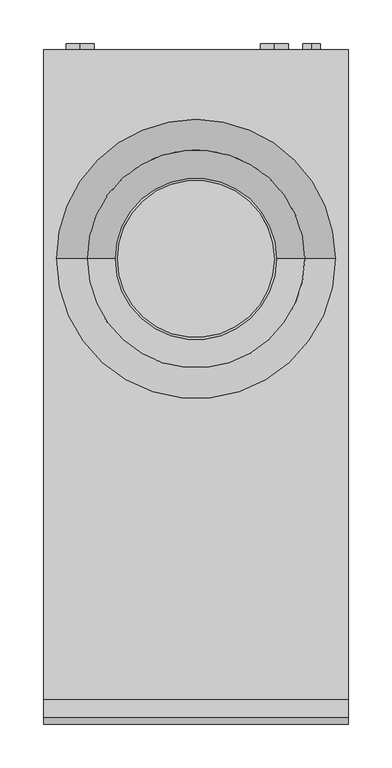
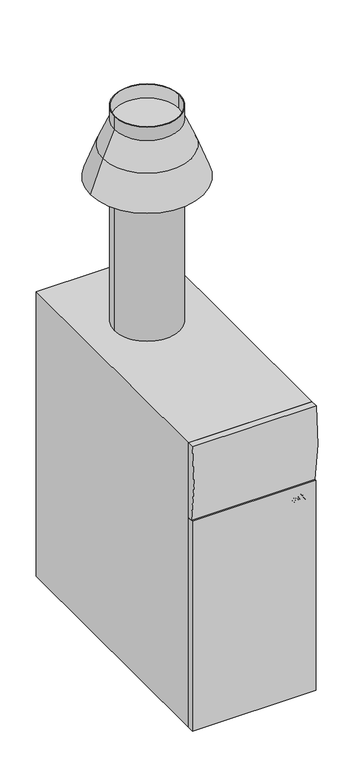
"""IFC4 building model written with IfcOpenShell, lengths in millimetres: proxy geometry, BAXI_ГазовыйКотел_Slim-iN : BAXI_Газовый котел_Slim_1.620_iN."""

from ifc_helpers import new_model, si_unit, point, frame, frame_2d, origin, origin_with_axes, place, context, project, spatial, polyline, circle_curve, trimmed, segment, composite_curve, outline, extrude, source, transform, mapped, element, save
from ifc_brep_helpers import plane_surface, cylinder_surface, revolved_surface, advanced_brep


def mechanical_equipment_ea8dedc1(model_context):
    return source(origin(), model_context, "Body", "SolidModel", [
        advanced_brep(
        [(-92.5, -350.0, 1490.0), (92.5, -350.0, 1490.0), (-90.0, -350.0, 1490.0), (90.0, -350.0, 1490.0), (-92.5, -350.0, 850.0), (92.5, -350.0, 850.0), (-90.0, -350.0, 850.0), (90.0, -350.0, 850.0), (90.0, -350.0, 1450.0), (-90.0, -350.0, 1450.0), (-90.0, -350.0, 1280.0), (90.0, -350.0, 1280.0), (-160.0, -350.0, 1280.0), (160.0, -350.0, 1280.0), (-92.5, -350.0, 1280.0), (92.5, -350.0, 1280.0), (125.0, -350.0, 1374.5309749), (-125.0, -350.0, 1374.5309749), (92.5, -350.0, 1450.0), (-92.5, -350.0, 1450.0)],
        [
            (0, 1, circle_curve(frame((0.0, -350.0, 1490.0), z_axis=(0.0, 0.0, 1.0), x_axis=(1.0, 0.0, 0.0)), 92.5)),
            (1, 0, circle_curve(frame((0.0, -350.0, 1490.0), z_axis=(0.0, 0.0, 1.0), x_axis=(1.0, 0.0, 0.0)), 92.5)),
            (2, 3, circle_curve(frame((0.0, -350.0, 1490.0), z_axis=(0.0, 0.0, -1.0), x_axis=(1.0, 0.0, 0.0)), 90.0)),
            (3, 2, circle_curve(frame((0.0, -350.0, 1490.0), z_axis=(0.0, 0.0, -1.0), x_axis=(1.0, 0.0, 0.0)), 90.0)),
            (4, 5, circle_curve(frame((0.0, -350.0, 850.0), z_axis=(0.0, 0.0, -1.0), x_axis=(1.0, 0.0, 0.0)), 92.5)),
            (5, 4, circle_curve(frame((0.0, -350.0, 850.0), z_axis=(0.0, 0.0, -1.0), x_axis=(1.0, 0.0, 0.0)), 92.5)),
            (6, 7, circle_curve(frame((0.0, -350.0, 850.0), z_axis=(0.0, 0.0, 1.0), x_axis=(1.0, 0.0, 0.0)), 90.0)),
            (7, 6, circle_curve(frame((0.0, -350.0, 850.0), z_axis=(0.0, 0.0, 1.0), x_axis=(1.0, 0.0, 0.0)), 90.0)),
            (3, 8),
            (8, 9, circle_curve(frame((0.0, -350.0, 1450.0), z_axis=(0.0, 0.0, -1.0), x_axis=(1.0, 0.0, 0.0)), 90.0)),
            (9, 2),
            (6, 10),
            (10, 11, circle_curve(frame((0.0, -350.0, 1280.0), z_axis=(0.0, 0.0, 1.0), x_axis=(1.0, 0.0, 0.0)), 90.0)),
            (11, 7),
            (9, 8, circle_curve(frame((0.0, -350.0, 1450.0), z_axis=(0.0, 0.0, -1.0), x_axis=(1.0, 0.0, 0.0)), 90.0)),
            (11, 10, circle_curve(frame((0.0, -350.0, 1280.0), z_axis=(0.0, 0.0, 1.0), x_axis=(1.0, 0.0, 0.0)), 90.0)),
            (12, 13, circle_curve(frame((0.0, -350.0, 1280.0), z_axis=(0.0, 0.0, -1.0), x_axis=(-1.0, 0.0, 0.0)), 160.0)),
            (13, 12, circle_curve(frame((0.0, -350.0, 1280.0), z_axis=(0.0, 0.0, -1.0), x_axis=(1.0, 0.0, 0.0)), 160.0)),
            (14, 15, circle_curve(frame((0.0, -350.0, 1280.0), z_axis=(0.0, 0.0, 1.0), x_axis=(1.0, 0.0, 0.0)), 92.5)),
            (15, 14, circle_curve(frame((0.0, -350.0, 1280.0), z_axis=(0.0, 0.0, 1.0), x_axis=(1.0, 0.0, 0.0)), 92.5)),
            (13, 16),
            (16, 17, circle_curve(frame((0.0, -350.0, 1374.5309749), z_axis=(0.0, 0.0, -1.0), x_axis=(1.0, 0.0, 0.0)), 125.0)),
            (17, 12),
            (17, 16, circle_curve(frame((0.0, -350.0, 1374.5309749), z_axis=(0.0, 0.0, -1.0), x_axis=(-1.0, 0.0, 0.0)), 125.0)),
            (16, 18),
            (18, 19, circle_curve(frame((0.0, -350.0, 1450.0), z_axis=(0.0, 0.0, -1.0), x_axis=(-1.0, 0.0, 0.0)), 92.5)),
            (19, 17),
            (19, 18, circle_curve(frame((0.0, -350.0, 1450.0), z_axis=(0.0, 0.0, -1.0), x_axis=(1.0, 0.0, 0.0)), 92.5)),
            (0, 19),
            (18, 1),
            (5, 15),
            (14, 4),
        ],
        [
            plane_surface(frame((90.0, -350.0, 1490.0), z_axis=(0.0, 0.0, 1.0), x_axis=(0.0, -1.0, 0.0))),
            plane_surface(frame((90.0, -350.0, 850.0), z_axis=(0.0, 0.0, -1.0), x_axis=(0.0, 1.0, 0.0))),
            revolved_surface(polyline([(90.0, -350.0, 1450.0), (90.0, -350.0, 1490.0)]), (0.0, -350.0, 850.0), (0.0, 0.0, -1.0)),
            revolved_surface(polyline([(90.0, -350.0, 850.0), (90.0, -350.0, 1280.0)]), (0.0, -350.0, 850.0), (0.0, 0.0, -1.0)),
            plane_surface(frame((0.0, -350.0, 1280.0), z_axis=(0.0, 0.0, -1.0), x_axis=(0.0, -1.0, 0.0))),
            revolved_surface(polyline([(-124.99999999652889, -350.0, 1374.5309749), (-160.0, -350.0, 1280.0)]), (0.0, -350.0, 1712.1415995), (0.0, 0.0, -1.0)),
            revolved_surface(polyline([(124.99999999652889, -350.0, 1374.5309749), (160.0, -350.0, 1280.0)]), (0.0, -350.0, 1712.1415995), (0.0, 0.0, -1.0)),
            plane_surface(frame((0.0, -350.0, 1450.0), z_axis=(0.0, 0.0, 1.0), x_axis=(0.0, -1.0, 0.0))),
            revolved_surface(polyline([(92.50000000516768, -350.0, 1450.0), (125.0, -350.0, 1374.5309749)]), (0.0, -350.0, 1664.7964561), (0.0, 0.0, -1.0)),
            cylinder_surface(frame((0.0, -350.0, 0.0), z_axis=(0.0, 0.0, 1.0), x_axis=(1.0, 0.0, 0.0)), 92.5),
        ],
        [
            (0, [[1, 2], [3, 4]]),
            (1, [[5, 6], [7, 8]]),
            (2, [[-4, 9, 10, 11]]),
            (3, [[-7, 12, 13, 14]]),
            (2, [[-3, -11, 15, -9]]),
            (3, [[-8, -14, 16, -12]]),
            (4, [[-13, -16]]),
            (4, [[17, 18], [19, 20]]),
            (5, [[-18, 21, 22, 23]]),
            (6, [[-17, -23, 24, -21]]),
            (7, [[-10, -15]]),
            (8, [[25, 26, 27, -22]]),
            (8, [[-25, -24, -27, 28]]),
            (9, [[-1, 29, -26, 30]]),
            (9, [[-6, 31, -19, 32]]),
            (9, [[-2, -30, -28, -29]]),
            (9, [[-5, -32, -20, -31]]),
        ],
    ),
        extrude(outline(composite_curve([segment(polyline([(-855.5, 627.0), (-869.6849095, 627.0)]), True, "CONTINUOUS"), segment(trimmed(circle_curve(frame_2d((-322.7028253, 752.5820014)), 561.2131854), [point((-869.6849095, 627.0))], [point((-875.396206, 850.0))], False, "CARTESIAN"), True, "CONTINUOUS"), segment(polyline([(-875.396206, 850.0), (-855.5, 850.0), (-855.5, 627.0)]), True, "CONTINUOUS")], self_intersect=False)), frame((-175.0, 0.0, 0.0), z_axis=(1.0, 0.0, 0.0), x_axis=(0.0, 1.0, 0.0)), (0.0, 0.0, 1.0), 350.0),
        extrude(outline(polyline([(175.0, -855.5), (175.0, -875.0), (-175.0, -875.0), (-175.0, -855.5), (175.0, -855.5)])), origin_with_axes(), (0.0, 0.0, 1.0), 627.0),
        extrude(outline(composite_curve([segment(trimmed(circle_curve(frame_2d((435.0, 133.0)), 10.0), [point((425.0, 133.0))], [point((445.0, 133.0))], False, "CARTESIAN"), True, "CONTINUOUS"), segment(trimmed(circle_curve(frame_2d((435.0, 133.0)), 10.0), [point((445.0, 133.0))], [point((425.0, 133.0))], False, "CARTESIAN"), True, "CONTINUOUS")], self_intersect=False)), frame((0.0, -110.0, 0.0), z_axis=(0.0, 1.0, 0.0), x_axis=(0.0, 0.0, 1.0)), (0.0, 0.0, 1.0), 7.0),
        extrude(outline(composite_curve([segment(trimmed(circle_curve(frame_2d((635.0, -133.0)), 16.0), [point((619.0, -133.0))], [point((651.0, -133.0))], False, "CARTESIAN"), True, "CONTINUOUS"), segment(trimmed(circle_curve(frame_2d((635.0, -133.0)), 16.0), [point((651.0, -133.0))], [point((619.0, -133.0))], False, "CARTESIAN"), True, "CONTINUOUS")], self_intersect=False)), frame((0.0, -110.0, 0.0), z_axis=(0.0, 1.0, 0.0), x_axis=(0.0, 0.0, 1.0)), (0.0, 0.0, 1.0), 7.0),
        extrude(outline(composite_curve([segment(trimmed(circle_curve(frame_2d((60.0, 90.0)), 16.0), [point((44.0, 90.0))], [point((76.0, 90.0))], False, "CARTESIAN"), True, "CONTINUOUS"), segment(trimmed(circle_curve(frame_2d((60.0, 90.0)), 16.0), [point((76.0, 90.0))], [point((44.0, 90.0))], False, "CARTESIAN"), True, "CONTINUOUS")], self_intersect=False)), frame((0.0, -110.0, 0.0), z_axis=(0.0, 1.0, 0.0), x_axis=(0.0, 0.0, 1.0)), (0.0, 0.0, 1.0), 7.0),
        extrude(outline(polyline([(175.0, -110.0), (175.0, -855.5), (-175.0, -855.5), (-175.0, -110.0), (175.0, -110.0)])), origin_with_axes(), (0.0, 0.0, 1.0), 850.0),
        extrude(outline(polyline([(596.3910755, 105.6468806), (581.0871845, 105.6468806), (581.0871845, 110.8772283), (581.1896659, 114.6196977), (581.9127292, 116.7015886), (583.4803152, 118.033847), (585.5014764, 118.5215826), (587.7978192, 117.8421688), (589.1794205, 115.8988175), (590.5344525, 117.4607102), (592.5157598, 118.0357448), (594.3167758, 117.5537026), (595.6034868, 116.3485971), (596.2392511, 114.7088945), (596.3910755, 111.9286117), (596.3910755, 105.6468806)]), holes=[polyline([(593.7189675, 108.5619075), (593.7189675, 110.5128499), (590.3674457, 113.2532788), (590.3181028, 110.7861337), (590.3181028, 108.5619075), (593.7189675, 108.5619075)]), polyline([(587.6459949, 108.5619075), (587.6459949, 111.2529935), (583.850387, 113.928897), (583.7592924, 111.6439411), (583.7592924, 108.5619075), (587.6459949, 108.5619075)])]), frame((0.0, -875.0, 0.0), z_axis=(0.0, 1.0, 0.0), x_axis=(0.0, 0.0, 1.0)), (0.0, 0.0, 1.0), 5.0),
        extrude(outline(polyline([(581.0871845, 133.8254736), (596.3910755, 128.1852003), (596.3910755, 125.080393), (581.0871845, 119.4932582), (581.0871845, 122.5980655), (584.4880491, 123.7822951), (584.4880491, 129.5630059), (581.0871845, 130.762418), (581.0871845, 133.8254736)]), holes=[polyline([(587.1601571, 128.6292864), (587.1601571, 124.7160147), (592.7472919, 126.6593659), (587.1601571, 128.6292864)])]), frame((0.0, -875.0, 0.0), z_axis=(0.0, 1.0, 0.0), x_axis=(0.0, 0.0, 1.0)), (0.0, 0.0, 1.0), 5.0),
        extrude(outline(polyline([(581.0871845, 133.946933), (581.0871845, 137.3553889), (586.4921301, 140.8701218), (581.0871845, 144.3848547), (581.0871845, 147.7933106), (589.1110995, 142.5743498), (596.3910755, 147.3074728), (596.3910755, 143.8990169), (591.7338646, 140.8701218), (596.3910755, 137.8412267), (596.3910755, 134.4327708), (589.1110995, 139.1658939), (581.0871845, 133.946933)])), frame((0.0, -875.0, 0.0), z_axis=(0.0, 1.0, 0.0), x_axis=(0.0, 0.0, 1.0)), (0.0, 0.0, 1.0), 5.0),
        extrude(outline(polyline([(149.3722835, -870.0), (152.2873103, -870.0), (152.2873103, -875.0), (149.3722835, -875.0), (149.3722835, -870.0)])), frame((0.0, 0.0, 581.0871845), z_axis=(0.0, 0.0, 1.0), x_axis=(1.0, 0.0, 0.0)), (0.0, 0.0, 1.0), 15.303891),
    ])


if __name__ == "__main__":
    model = new_model("IFC4")
    model_context = context("Model", 3, world=origin())
    ifc_project = project(units=[si_unit("LENGTHUNIT", "METRE", prefix="MILLI")], contexts=[model_context])
    site = spatial("IfcSite", under=ifc_project)
    building = spatial("IfcBuilding", under=site)
    placement = place(None, origin())
    mechanical_equipment_shape = mechanical_equipment_ea8dedc1(model_context)
    element("IfcBuildingElementProxy", 1, Name="BAXI_ГазовыйКотел_Slim-iN : BAXI_Газовый котел_Slim_1.620_iN", ObjectType="BAXI_ГазовыйКотел_Slim-iN : BAXI_Газовый котел_Slim_1.620_iN", at=placement, inside=building, context=model_context, shape_type="MappedRepresentation", body=[
        mapped(mechanical_equipment_shape, transform((0.0, 0.0, 0.0), x_axis=(1.0, 0.0, 0.0), y_axis=(0.0, 1.0, 0.0), z_axis=(0.0, 0.0, 1.0))),
    ])
    save(model, "model.ifc")
